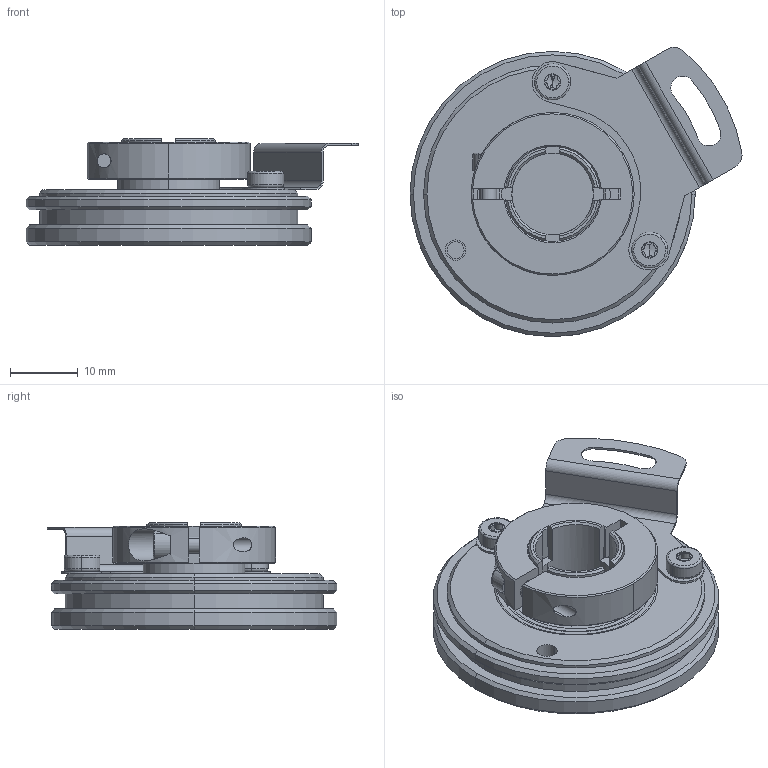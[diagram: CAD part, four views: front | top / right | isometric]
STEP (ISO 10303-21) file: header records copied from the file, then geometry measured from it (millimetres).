
FILE_DESCRIPTION (( 'STEP AP203' ), '1' );
FILE_NAME ('MCD-V120-Q3A-N.STEP', '2013-05-14T06:35:02', ( '' ), ( '' ), 'SwSTEP 2.0', 'SolidWorks 2006104', '' );
FILE_SCHEMA (( 'CONFIG_CONTROL_DESIGN' ));
Length unit declared in the file: millimetre
Products named in the file (1): MCD-V120-Q3A-N
Bounding box: 48.89 x 42.6 x 15.7 mm (x, y, z)
Volume: 10802.9 mm3; surface area: 11340.7 mm2
Topology: 24 solids, 24 shells, 529 faces, 1243 edges, 752 vertices
Faces by surface type: cone 190, cylinder 169, plane 96, torus 46, sphere 28
Entity records: 15159 total; most frequent: CARTESIAN_POINT 3048, DIRECTION 2790, ORIENTED_EDGE 2334, AXIS2_PLACEMENT_3D 1174, EDGE_CURVE 1167, VERTEX_POINT 710, CIRCLE 644, EDGE_LOOP 571
